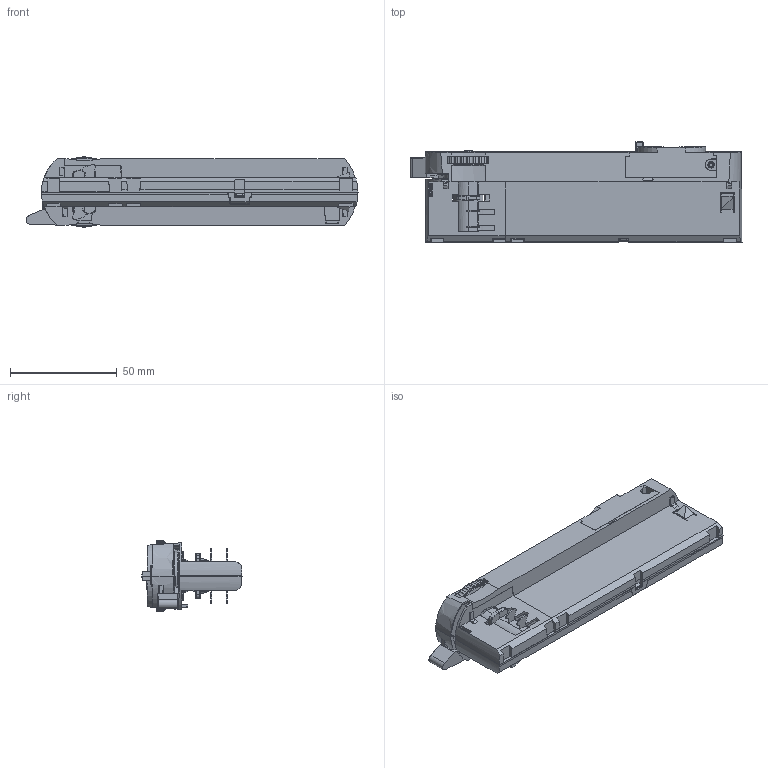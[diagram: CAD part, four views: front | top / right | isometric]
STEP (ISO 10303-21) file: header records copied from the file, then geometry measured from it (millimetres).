
FILE_DESCRIPTION(('Creo Elements/Direct Modeling STEP Export'),'2;1');
FILE_NAME('UT-145.stp','2026-05-29T 9:49:26',(''),(''),'Creo Elements/Direct Modeling STEP processor for AP214 (Solid Model)','Creo Elements/Direct Modeling 20.7 06-Apr-2024 (C) Parametric Technology GmbH','');
FILE_SCHEMA(('AUTOMOTIVE_DESIGN { 1 0 10303 214 1 1 1 1 }'));
Length unit declared in the file: millimetre
Products named in the file (6): phase selector cover; casing bottom; casing top; light mounting cover; phase selector switch; UT-145
Assembly tree (5 placements, depth 2):
  UT-145
    phase selector switch
    light mounting cover
    casing top
    casing bottom
    phase selector cover
Bounding box: 155.43 x 46.85 x 33.1 mm (x, y, z)
Volume: 47252.1 mm3; surface area: 57561 mm2
Topology: 5 solids, 5 shells, 2158 faces, 6209 edges, 4050 vertices
Faces by surface type: plane 1314, cylinder 624, bspline 84, extrusion 65, torus 38, sphere 22, cone 11
Entity records: 76149 total; most frequent: CARTESIAN_POINT 20900, ORIENTED_EDGE 12346, DIRECTION 10313, EDGE_CURVE 6173, VECTOR 4283, LINE 4218, VERTEX_POINT 4050, AXIS2_PLACEMENT_3D 3015
